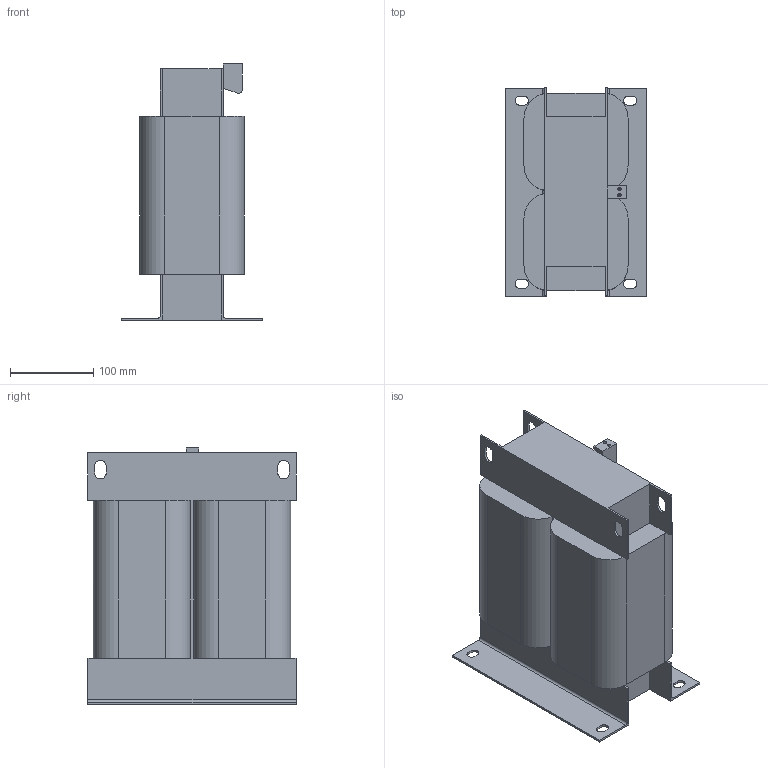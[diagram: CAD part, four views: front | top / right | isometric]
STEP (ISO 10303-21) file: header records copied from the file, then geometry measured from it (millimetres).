
FILE_DESCRIPTION(/* description */ (''),/* implementation_level */ '2;1');
FILE_NAME(/* name */ 'ENT.SRS1 230-10 KVAr Müşteri Datası.stp',/* time_stamp */ '2021-12-01T12:02:47+03:00',/* author */ (''),/* organization */ (''),/* preprocessor_version */ 'ST-DEVELOPER v16',/* originating_system */ 'SIEMENS PLM Software NX 11.0',/* authorisation */ '');
FILE_SCHEMA (('AP203_CONFIGURATION_CONTROLLED_3D_DESIGN_OF_MECHANICAL_PARTS_AND_ASSEMBLIES_MIM_LF { 1 0 10303 403 2 1 2}'));
Length unit declared in the file: millimetre
Products named in the file (1): ENT.SRS1 230-10 KVAr Müşteri Datası
Bounding box: 170 x 250 x 307.65 mm (x, y, z)
Volume: 6930079.6 mm3; surface area: 329791.7 mm2
Topology: 1 solids, 1 shells, 133 faces, 355 edges, 228 vertices
Faces by surface type: plane 104, cylinder 29
Full cylindrical faces by diameter (mm): 4.1 x2
Entity records: 4199 total; most frequent: CARTESIAN_POINT 711, ORIENTED_EDGE 702, DIRECTION 699, EDGE_CURVE 351, LINE 271, VECTOR 271, VERTEX_POINT 226, AXIS2_PLACEMENT_3D 214
